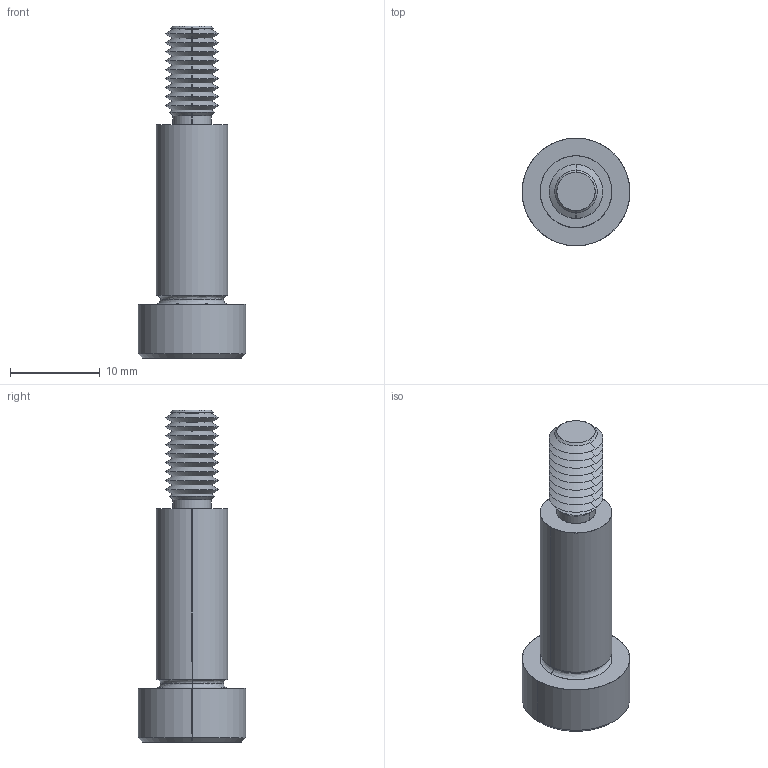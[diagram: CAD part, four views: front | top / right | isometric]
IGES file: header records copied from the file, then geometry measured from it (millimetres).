
Start section: SolidWorks IGES file using analytic representation for surfaces
Global section: file name: C:\Users\IanO\Documents\Temp Folder\GENERAL\SCREW REVISION\P0130_v2\P0130.T5_v2_20220106_IGES\P0130.080-020-T5.igs; native system: SolidWorks 2019; preprocessor: SolidWorks 2019; author: IanO; date: 220106.223410; units: millimetre
Bounding box: 12 x 12 x 37 mm (x, y, z)
Surface area: 1338.9 mm2 (no closed solid volume)
Topology: 0 solids, 0 shells, 80 faces, 580 edges, 578 vertices
Faces by surface type: revolution 60, bspline 20
